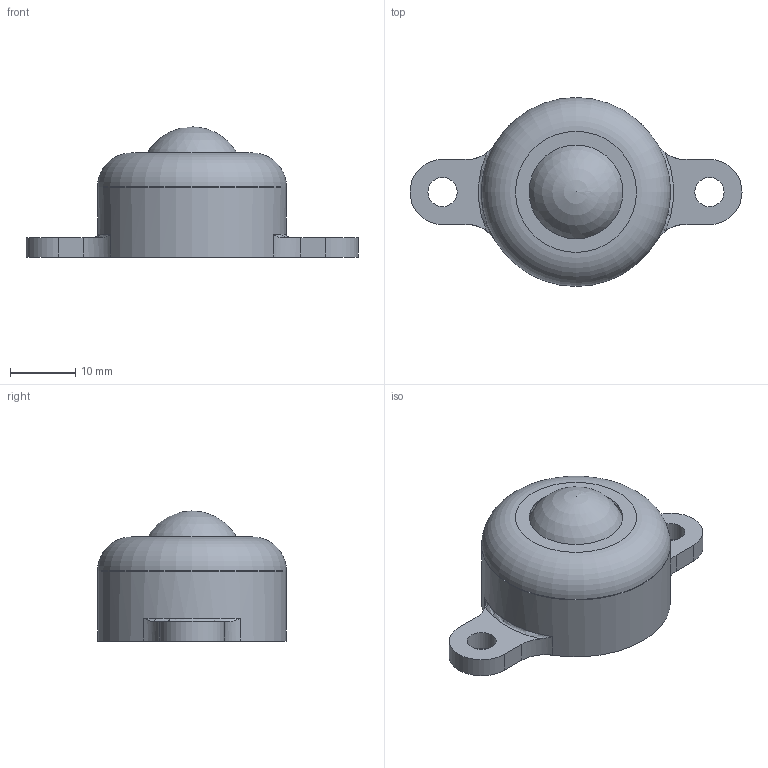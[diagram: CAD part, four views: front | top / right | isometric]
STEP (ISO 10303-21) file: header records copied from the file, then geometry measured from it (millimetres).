
FILE_DESCRIPTION(/* description */ (''),/* implementation_level */ '2;1');
FILE_NAME(/* name */ 'Z:\34-Tei\web 3Dデータ\IP-16型\IP-16JW.stp',/* time_stamp */ '2015-01-06T10:03:20+09:00',/* author */ ('yamaki'),/* organization */ (''),/* preprocessor_version */ 'ST-DEVELOPER v15.6',/* originating_system */ 'Autodesk Inventor 2015',/* authorisation */ '');
FILE_SCHEMA (('AUTOMOTIVE_DESIGN { 1 0 10303 214 3 1 1 }'));
Length unit declared in the file: millimetre
Products named in the file (1): IP-16JW
Bounding box: 51 x 29 x 20 mm (x, y, z)
Volume: 8466.2 mm3; surface area: 5254.2 mm2
Topology: 1 solids, 1 shells, 59 faces, 136 edges, 90 vertices
Faces by surface type: plane 25, cylinder 20, sphere 10, torus 3, cone 1
Full cylindrical faces by diameter (mm): 0.5 x5, 4.5 x2, 16.4 x1, 23.2 x1, 29 x1
Entity records: 1929 total; most frequent: CARTESIAN_POINT 550, DIRECTION 278, ORIENTED_EDGE 230, EDGE_CURVE 115, AXIS2_PLACEMENT_3D 115, EDGE_LOOP 88, VERTEX_POINT 83, STYLED_ITEM 60
